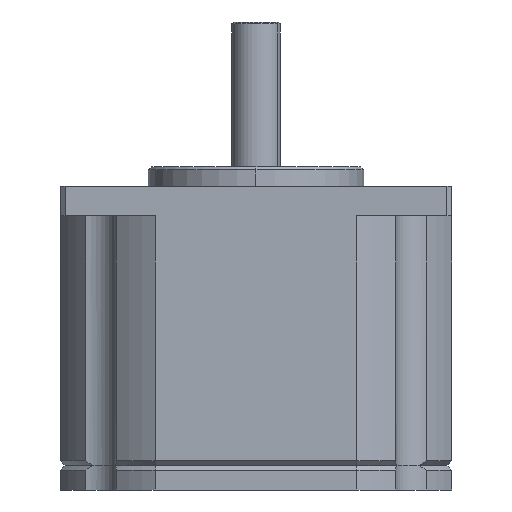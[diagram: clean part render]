
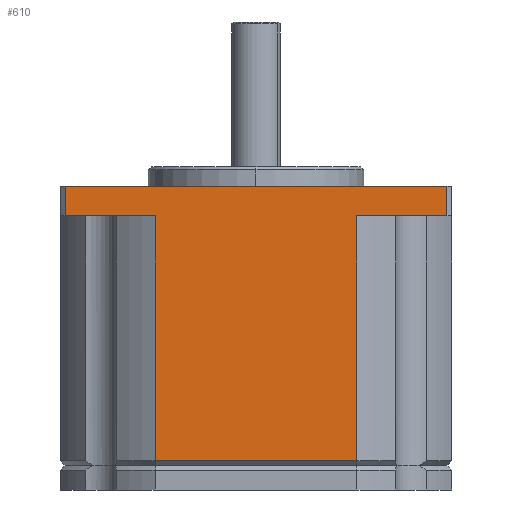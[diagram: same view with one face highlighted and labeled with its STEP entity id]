
A CAD part, left-side view. The second image highlights one B-rep face of the part: STEP entity #610.
In plain terms, the highlighted planar face has unit normal (-1, 0, 0).
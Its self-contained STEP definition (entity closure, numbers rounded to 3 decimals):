
#246 = ORIENTED_EDGE ( 'NONE', *, *, #8433, .T. ) ;
#309 = LINE ( 'NONE', #1054, #1931 ) ;
#329 = ORIENTED_EDGE ( 'NONE', *, *, #8445, .T. ) ;
#610 = ADVANCED_FACE ( 'NONE', ( #6992 ), #826, .F. ) ;
#657 = EDGE_LOOP ( 'NONE', ( #11204, #7446, #9247, #246, #10839, #8772, #329, #4670 ) ) ;
#826 = PLANE ( 'NONE',  #4454 ) ;
#845 = EDGE_CURVE ( 'NONE', #6924, #10423, #309, .T. ) ;
#959 = CARTESIAN_POINT ( 'NONE',  ( -20., -10.308, -3. ) ) ;
#1054 = CARTESIAN_POINT ( 'NONE',  ( -20., -10.308, 64.276 ) ) ;
#1207 = CARTESIAN_POINT ( 'NONE',  ( -20., -19.5, -3. ) ) ;
#1293 = LINE ( 'NONE', #4048, #8809 ) ;
#1416 = DIRECTION ( 'NONE',  ( 0., 0., 1. ) ) ;
#1452 = VERTEX_POINT ( 'NONE', #1207 ) ;
#1559 = DIRECTION ( 'NONE',  ( 0., 0., -1. ) ) ;
#1692 = VERTEX_POINT ( 'NONE', #1900 ) ;
#1808 = CARTESIAN_POINT ( 'NONE',  ( -20., -10.308, -28. ) ) ;
#1900 = CARTESIAN_POINT ( 'NONE',  ( -20., 19.5, -3. ) ) ;
#1931 = VECTOR ( 'NONE', #7205, 1000. ) ;
#2069 = VECTOR ( 'NONE', #8691, 1000. ) ;
#2138 = VERTEX_POINT ( 'NONE', #5961 ) ;
#2249 = DIRECTION ( 'NONE',  ( 0., 0., 1. ) ) ;
#2286 = VECTOR ( 'NONE', #1416, 1000. ) ;
#2301 = DIRECTION ( 'NONE',  ( 0., 0., -1. ) ) ;
#2365 = CARTESIAN_POINT ( 'NONE',  ( -20., -19.5, -28.5 ) ) ;
#2920 = CARTESIAN_POINT ( 'NONE',  ( -20., 10.308, -3. ) ) ;
#2961 = CARTESIAN_POINT ( 'NONE',  ( -20., 10.308, -28. ) ) ;
#3086 = LINE ( 'NONE', #8431, #6214 ) ;
#3291 = LINE ( 'NONE', #7435, #4742 ) ;
#3319 = EDGE_CURVE ( 'NONE', #9694, #10423, #4022, .T. ) ;
#4022 = LINE ( 'NONE', #6610, #6329 ) ;
#4048 = CARTESIAN_POINT ( 'NONE',  ( -20., 10.308, 64.276 ) ) ;
#4085 = DIRECTION ( 'NONE',  ( 0., -1., 0. ) ) ;
#4220 = LINE ( 'NONE', #2365, #2286 ) ;
#4306 = EDGE_CURVE ( 'NONE', #1452, #10586, #4220, .T. ) ;
#4454 = AXIS2_PLACEMENT_3D ( 'NONE', #8648, #7458, #2301 ) ;
#4670 = ORIENTED_EDGE ( 'NONE', *, *, #8169, .T. ) ;
#4742 = VECTOR ( 'NONE', #4085, 1000. ) ;
#5207 = CARTESIAN_POINT ( 'NONE',  ( -20., -20., 0. ) ) ;
#5287 = EDGE_CURVE ( 'NONE', #9694, #10998, #1293, .T. ) ;
#5468 = VECTOR ( 'NONE', #1559, 1000. ) ;
#5743 = CARTESIAN_POINT ( 'NONE',  ( -20., -19.5, 0. ) ) ;
#5900 = LINE ( 'NONE', #9391, #5468 ) ;
#5961 = CARTESIAN_POINT ( 'NONE',  ( -20., 19.5, 0. ) ) ;
#6214 = VECTOR ( 'NONE', #6566, 1000. ) ;
#6329 = VECTOR ( 'NONE', #6431, 1000. ) ;
#6431 = DIRECTION ( 'NONE',  ( 0., -1., 0. ) ) ;
#6566 = DIRECTION ( 'NONE',  ( 0., -1., 0. ) ) ;
#6610 = CARTESIAN_POINT ( 'NONE',  ( -20., -20., -28. ) ) ;
#6924 = VERTEX_POINT ( 'NONE', #959 ) ;
#6992 = FACE_OUTER_BOUND ( 'NONE', #657, .T. ) ;
#7205 = DIRECTION ( 'NONE',  ( 0., 0., -1. ) ) ;
#7435 = CARTESIAN_POINT ( 'NONE',  ( -20., -20., -3. ) ) ;
#7446 = ORIENTED_EDGE ( 'NONE', *, *, #3319, .T. ) ;
#7458 = DIRECTION ( 'NONE',  ( 1., 0., 0. ) ) ;
#8169 = EDGE_CURVE ( 'NONE', #1692, #10998, #3086, .T. ) ;
#8431 = CARTESIAN_POINT ( 'NONE',  ( -20., -20., -3. ) ) ;
#8433 = EDGE_CURVE ( 'NONE', #6924, #1452, #3291, .T. ) ;
#8445 = EDGE_CURVE ( 'NONE', #2138, #1692, #5900, .T. ) ;
#8648 = CARTESIAN_POINT ( 'NONE',  ( -20., -20., -28.5 ) ) ;
#8691 = DIRECTION ( 'NONE',  ( 0., 1., 0. ) ) ;
#8745 = LINE ( 'NONE', #5207, #2069 ) ;
#8772 = ORIENTED_EDGE ( 'NONE', *, *, #10248, .T. ) ;
#8809 = VECTOR ( 'NONE', #2249, 1000. ) ;
#9247 = ORIENTED_EDGE ( 'NONE', *, *, #845, .F. ) ;
#9391 = CARTESIAN_POINT ( 'NONE',  ( -20., 19.5, -28.5 ) ) ;
#9694 = VERTEX_POINT ( 'NONE', #2961 ) ;
#10248 = EDGE_CURVE ( 'NONE', #10586, #2138, #8745, .T. ) ;
#10423 = VERTEX_POINT ( 'NONE', #1808 ) ;
#10586 = VERTEX_POINT ( 'NONE', #5743 ) ;
#10839 = ORIENTED_EDGE ( 'NONE', *, *, #4306, .T. ) ;
#10998 = VERTEX_POINT ( 'NONE', #2920 ) ;
#11204 = ORIENTED_EDGE ( 'NONE', *, *, #5287, .F. ) ;
